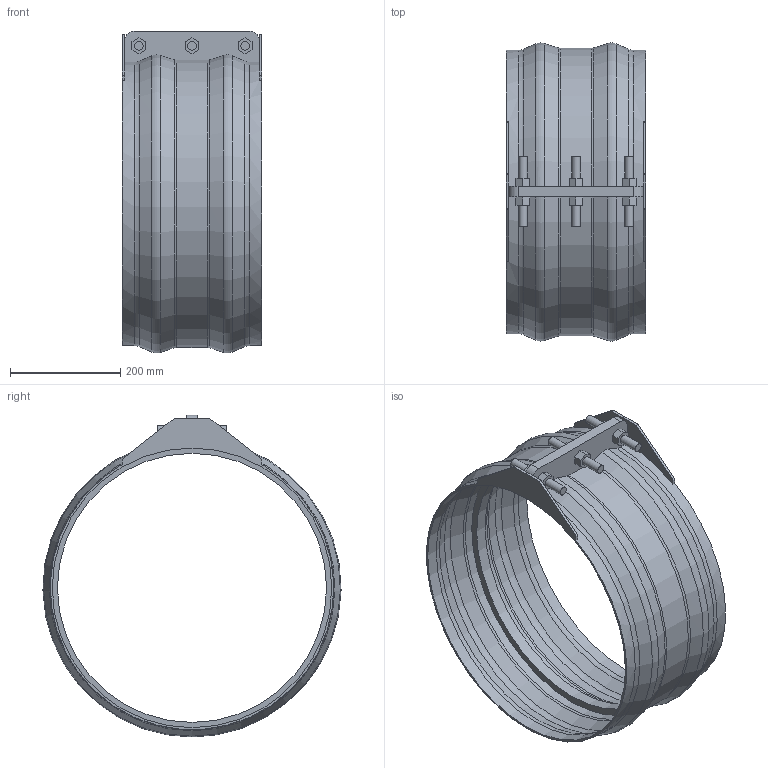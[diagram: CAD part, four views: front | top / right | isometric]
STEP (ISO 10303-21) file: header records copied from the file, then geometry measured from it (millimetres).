
FILE_DESCRIPTION(/* description */ ('VIC SS NON RESTRAINED COUPLING STYLE 229S (FLEX) (BEF)','CAx-IF Rec.Pracs.---Representation and Presentation of Product Manufacturing Information (PMI)---4.0---2014-10-13'),/* implementation_level */ '2;1');
FILE_NAME(/* name */ 'C:\Users\Vjadhav\Desktop\CAD for Inventor\1\229S\STEP\Victaulic_VBSP_Coupling Flexible Non-Restrained_Style 229S (BEF)\Victaulic_VBSP_Coupling Flexible Non-Restrained_Style 229S (BEF)_20 (500).stp',/* time_stamp */ '2021-08-26T18:17:10+06:00',/* author */ ('Vjadhav'),/* organization */ ('Victaulic'),/* preprocessor_version */ 'ST-DEVELOPER v17.2',/* originating_system */ 'Autodesk Inventor 2019',/* authorisation */ '');
FILE_SCHEMA (('AP242_MANAGED_MODEL_BASED_3D_ENGINEERING_MIM_LF { 1 0 10303 442 1 1 4 }'));
Length unit declared in the file: inch
Products named in the file (1): 229S-20.0
Bounding box: 254 x 541.75 x 585 mm (x, y, z)
Volume: 2395650.2 mm3; surface area: 986702 mm2
Topology: 1 solids, 1 shells, 111 faces, 301 edges, 206 vertices
Faces by surface type: plane 67, cylinder 24, torus 12, cone 8
Full cylindrical faces by diameter (mm): 15.875 x6, 488.95 x1, 508 x2, 514.35 x2
Entity records: 3874 total; most frequent: CARTESIAN_POINT 748, DIRECTION 633, ORIENTED_EDGE 602, EDGE_CURVE 301, AXIS2_PLACEMENT_3D 227, VERTEX_POINT 206, LINE 179, VECTOR 179
